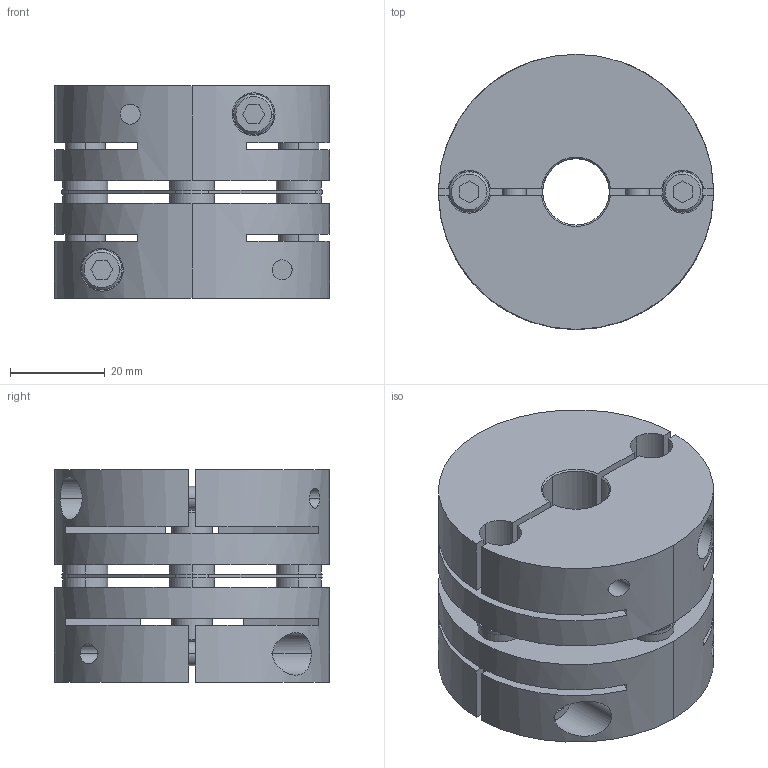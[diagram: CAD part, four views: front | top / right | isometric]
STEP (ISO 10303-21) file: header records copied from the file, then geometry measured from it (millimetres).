
FILE_DESCRIPTION((''),'2;1');
FILE_NAME('LAS-58C-14×24.stp','2015-10-15T14:46:59',(''),(''),'AutoCAD STEP 2000i','AutoCAD 2000i',', , ');
FILE_SCHEMA(('CONFIG_CONTROL_DESIGN'));
Length unit declared in the file: millimetre
Products named in the file (6): LAS-58C-12×19; 忣兜1; LA-5802-D19; LA-5802-D12-1; LA-5802-D12; LAS58-ITA
Assembly tree (5 placements, depth 2):
  LAS-58C-12×19
    忣兜1
    LA-5802-D19
    LA-5802-D12-1
    LA-5802-D12
    LAS58-ITA
Bounding box: 58 x 58 x 44.8 mm (x, y, z)
Volume: 84512.7 mm3; surface area: 32946.5 mm2
Topology: 1 solids, 1 shells, 238 faces, 618 edges, 404 vertices
Faces by surface type: plane 114, cylinder 96, cone 28
Entity records: 8213 total; most frequent: CARTESIAN_POINT 1988, DIRECTION 1316, ORIENTED_EDGE 1240, EDGE_CURVE 620, AXIS2_PLACEMENT_3D 484, VERTEX_POINT 404, VECTOR 348, LINE 348
